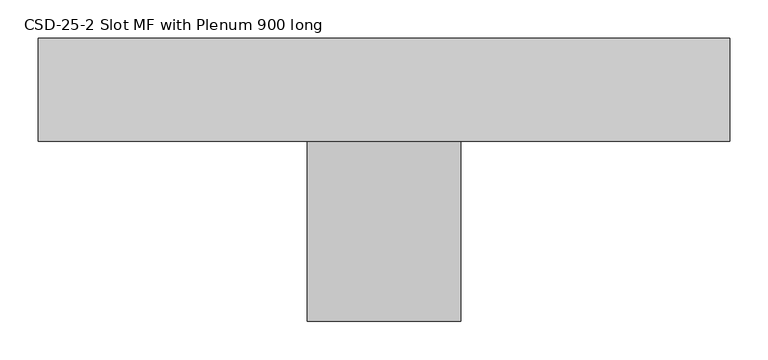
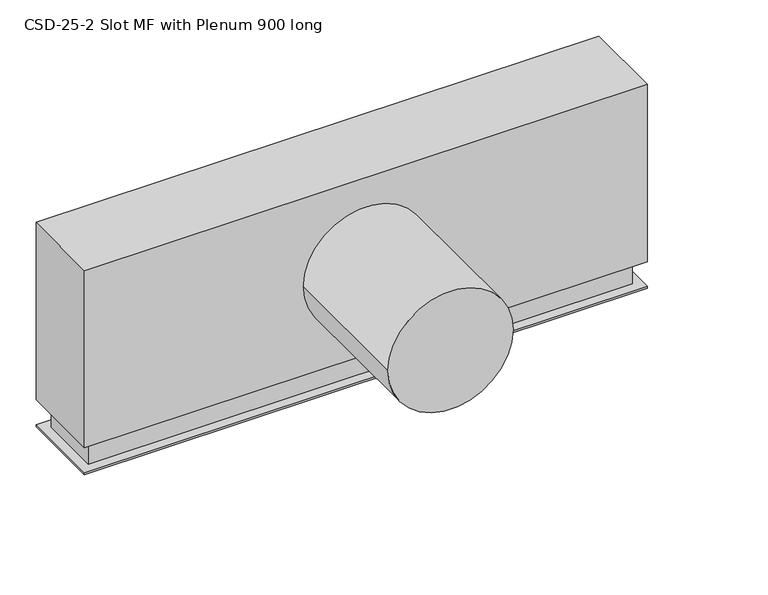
"""IFC4 building model written with IfcOpenShell, lengths in millimetres: air terminal geometry, DC_Holyoake_MEQ_CSD-25-2-MF_Slot_with_CSDAI_Plenum_14 : CSD-25-2 Slot MF with Plenum 900 long."""

import ifcopenshell
import ifcopenshell.guid

model = None  # the IFC model being written
_history = None  # IfcOwnerHistory: only IFC2X3 demands one
_inside = {}  # id of a spatial element -> (the spatial element, [elements in it])
_under = {}  # id of a project, library or spatial element -> (it, [spatial elements below it])
_declared = {}  # id of a project -> (the project, [libraries it declares])
_typed = {}  # id of a type object -> (the type object, [elements of that type])
_made_of = {}  # id of a material, layer set ... -> (it, [elements and type objects made of it])


def new_model(schema):
    """Start an empty IFC model of exactly this schema.

    Asked for "IFC4X3", IfcOpenShell would pick the latest addendum, in which some entities
    have other attributes; the version numbers below select the first issue.
    IFC2X3 requires an IfcOwnerHistory on every rooted entity: one is made here for all.
    """
    global model, _history
    if schema == "IFC4X3":
        model = ifcopenshell.file(schema_version=(4, 3, 0, 0))
    else:
        model = ifcopenshell.file(schema=schema)
    _inside.clear()
    _under.clear()
    _declared.clear()
    _typed.clear()
    _made_of.clear()
    _history = None
    if model.schema == "IFC2X3":
        org = make("IfcOrganization", Name="unknown")
        user = make(
            "IfcPersonAndOrganization",
            ThePerson=make("IfcPerson", FamilyName="unknown"),
            TheOrganization=org,
        )
        app = make(
            "IfcApplication",
            ApplicationDeveloper=org,
            Version="unknown",
            ApplicationFullName="unknown",
            ApplicationIdentifier="unknown",
        )
        _history = make(
            "IfcOwnerHistory",
            OwningUser=user,
            OwningApplication=app,
            ChangeAction="ADDED",
            CreationDate=0,
        )
    return model


def make(cls, **values):
    """One entity of the class cls with the attributes given. An attribute that is None is left unset."""
    return model.create_entity(
        cls, **{name: value for name, value in values.items() if value is not None}
    )


def rooted(cls, **values):
    """An entity with a GlobalId (a new one), such as an element, a storey or a relation."""
    return make(cls, GlobalId=ifcopenshell.guid.new(), OwnerHistory=_history, **values)


def si_unit(unit_type, name, prefix=None):
    """IfcSIUnit, for example si_unit("LENGTHUNIT", "METRE", prefix="MILLI")."""
    return make("IfcSIUnit", UnitType=unit_type, Prefix=prefix, Name=name)


def assignment(units):
    """IfcUnitAssignment: the units of a project."""
    return None if units is None else make("IfcUnitAssignment", Units=units)


def point(xyz):
    """IfcCartesianPoint."""
    return None if xyz is None else make("IfcCartesianPoint", Coordinates=xyz)


def direction(xyz):
    """IfcDirection."""
    return None if xyz is None else make("IfcDirection", DirectionRatios=xyz)


def frame(location, z_axis=None, x_axis=None):
    """IfcAxis2Placement3D, a coordinate frame: its origin and axes. An axis left out is left unset."""
    return make(
        "IfcAxis2Placement3D",
        Location=point(location),
        Axis=direction(z_axis),
        RefDirection=direction(x_axis),
    )


def frame_2d(location, x_axis=None):
    """IfcAxis2Placement2D, a coordinate frame in the plane: its origin and x axis."""
    return make(
        "IfcAxis2Placement2D", Location=point(location), RefDirection=direction(x_axis)
    )


def origin():
    """The frame at (0, 0, 0) with its axes left unset."""
    return frame((0.0, 0.0, 0.0))


def place(relative_to, where):
    """IfcLocalPlacement: puts the frame where relative to a parent placement (None: the world)."""
    return make(
        "IfcLocalPlacement", PlacementRelTo=relative_to, RelativePlacement=where
    )


def context(
    kind, dimensions, precision=None, world=None, true_north=None, identifier=None
):
    """IfcGeometricRepresentationContext, for example the 3D "Model" context."""
    return make(
        "IfcGeometricRepresentationContext",
        ContextIdentifier=identifier,
        ContextType=kind,
        CoordinateSpaceDimension=dimensions,
        Precision=precision,
        WorldCoordinateSystem=world,
        TrueNorth=true_north,
    )


def project(units=None, contexts=None):
    """IfcProject with its units and contexts."""
    return rooted(
        "IfcProject",
        Name="project",
        RepresentationContexts=contexts,
        UnitsInContext=assignment(units),
    )


def spatial(cls, under=None, at=None, **own):
    """A site, building, storey or space (cls), placed at a placement, below another one or the project."""
    s = rooted(cls, ObjectPlacement=at, **own)
    if under is not None:
        _under.setdefault(under.id(), (under, []))[1].append(s)
    return s


def polyline(points):
    """IfcPolyline through the points."""
    return make("IfcPolyline", Points=[point(p) for p in points])


def circle_curve(where, radius):
    """IfcCircle in the frame where."""
    return make("IfcCircle", Position=where, Radius=radius)


def trimmed(basis, trim1, trim2, sense, master):
    """IfcTrimmedCurve: the piece of a basis curve between two trims."""
    return make(
        "IfcTrimmedCurve",
        BasisCurve=basis,
        Trim1=trim1,
        Trim2=trim2,
        SenseAgreement=sense,
        MasterRepresentation=master,
    )


def segment(curve, same_sense, transition):
    """IfcCompositeCurveSegment."""
    return make(
        "IfcCompositeCurveSegment",
        Transition=transition,
        SameSense=same_sense,
        ParentCurve=curve,
    )


def composite_curve(segments, self_intersect=None):
    """IfcCompositeCurve: segments joined end to end."""
    return make("IfcCompositeCurve", Segments=segments, SelfIntersect=self_intersect)


def outline(outer, holes=None, kind="AREA"):
    """IfcArbitraryClosedProfileDef: a profile drawn as a closed curve; with holes, ...WithVoids."""
    if holes is None:
        return make("IfcArbitraryClosedProfileDef", ProfileType=kind, OuterCurve=outer)
    return make(
        "IfcArbitraryProfileDefWithVoids",
        ProfileType=kind,
        OuterCurve=outer,
        InnerCurves=holes,
    )


def extrude(swept, where, along, depth):
    """IfcExtrudedAreaSolid: the profile swept, set in the frame where, extruded along a direction by depth."""
    return make(
        "IfcExtrudedAreaSolid",
        SweptArea=swept,
        Position=where,
        ExtrudedDirection=direction(along),
        Depth=depth,
    )


def faces_of(points, faces, orient=None, outer=None):
    """IfcFace entities. A face is a list of loops; a loop is a list of indices into points, from 0.

    orient and outer hold one flag for each loop. By default every Orientation is true, the
    first loop of a face is its IfcFaceOuterBound and the others are IfcFaceBound.
    """
    made = []
    for i, loops in enumerate(faces):
        bounds = []
        for j, loop in enumerate(loops):
            is_outer = j == 0 if outer is None else outer[i][j]
            bounds.append(
                make(
                    "IfcFaceOuterBound" if is_outer else "IfcFaceBound",
                    Bound=make("IfcPolyLoop", Polygon=[points[k] for k in loop]),
                    Orientation=True if orient is None else orient[i][j],
                )
            )
        made.append(make("IfcFace", Bounds=bounds))
    return made


def faceted_brep(points, faces, orient=None, outer=None, voids=None):
    """IfcFacetedBrep: a solid bounded by flat faces; with voids (closed shells), ...WithVoids."""
    shared = [point(p) for p in points]
    hull = make("IfcClosedShell", CfsFaces=faces_of(shared, faces, orient, outer))
    if voids is None:
        return make("IfcFacetedBrep", Outer=hull)
    return make(
        "IfcFacetedBrepWithVoids",
        Outer=hull,
        Voids=[
            make(cls, CfsFaces=faces_of(shared, fs, o, b)) for cls, fs, o, b in voids
        ],
    )


def shape(context_of_items, identifier, shape_type, items):
    """IfcShapeRepresentation: the items that make up one representation, for example the "Body"."""
    return make(
        "IfcShapeRepresentation",
        ContextOfItems=context_of_items,
        RepresentationIdentifier=identifier,
        RepresentationType=shape_type,
        Items=items,
    )


def source(mapping_origin, context_of_items, identifier, shape_type, items):
    """IfcRepresentationMap: a shape defined once, which mapped items show again and again."""
    return make(
        "IfcRepresentationMap",
        MappingOrigin=mapping_origin,
        MappedRepresentation=shape(context_of_items, identifier, shape_type, items),
    )


def transform(
    local_origin,
    x_axis=None,
    y_axis=None,
    z_axis=None,
    scale=None,
    scale2=None,
    scale3=None,
    uniform=True,
):
    """IfcCartesianTransformationOperator3D, or its non-uniform kind. x_axis, y_axis, z_axis: its Axis1, 2, 3."""
    if uniform:
        return make(
            "IfcCartesianTransformationOperator3D",
            Axis1=direction(x_axis),
            Axis2=direction(y_axis),
            LocalOrigin=point(local_origin),
            Scale=scale,
            Axis3=direction(z_axis),
        )
    return make(
        "IfcCartesianTransformationOperator3DnonUniform",
        Axis1=direction(x_axis),
        Axis2=direction(y_axis),
        LocalOrigin=point(local_origin),
        Scale=scale,
        Axis3=direction(z_axis),
        Scale2=scale2,
        Scale3=scale3,
    )


def mapped(mapping_source, mapping_target):
    """IfcMappedItem: shows the shape of a source again, moved by a transform."""
    return make(
        "IfcMappedItem", MappingSource=mapping_source, MappingTarget=mapping_target
    )


def made_of(thing, what):
    """Note that an element or type object is made of a material, layer set ...; save() writes the relation."""
    if what is not None:
        _made_of.setdefault(what.id(), (what, []))[1].append(thing)
    return thing


def element(
    cls,
    number,
    at=None,
    inside=None,
    cuts=None,
    type_object=None,
    material=None,
    context=None,
    identifier="Body",
    shape_type=None,
    held_by="IfcProductDefinitionShape",
    body=None,
    shapes=None,
    **own,
):
    """One element of the class cls, such as IfcWall. Its Tag is "e" and its number.

    at: its placement. inside: the storey or other place that contains it. cuts: it is an
    opening in that element (IfcRelVoidsElement). A single representation is given by context,
    identifier, shape_type and body (its items); several are given by shapes. held_by: the class
    of the entity that holds the representations. save() writes the other relations.
    """
    e = rooted(cls, Tag="e%d" % number, ObjectPlacement=at, **own)
    if body is not None:
        shapes = [shape(context, identifier, shape_type, body)]
    if shapes is not None:
        e.Representation = make(held_by, Representations=shapes)
    if inside is not None:
        _inside.setdefault(inside.id(), (inside, []))[1].append(e)
    if cuts is not None:
        rooted(
            "IfcRelVoidsElement", RelatingBuildingElement=cuts, RelatedOpeningElement=e
        )
    if type_object is not None:
        _typed.setdefault(type_object.id(), (type_object, []))[1].append(e)
    return made_of(e, material)


def aggregate(whole, parts):
    """IfcRelAggregates: a whole, such as a stair, and the parts it consists of."""
    return rooted("IfcRelAggregates", RelatingObject=whole, RelatedObjects=parts)


def save(model, path):
    """Write the relations noted so far, then the file.

    IfcRelAggregates (storeys below a building ...), IfcRelContainedInSpatialStructure (elements
    in a storey), IfcRelDefinesByType, IfcRelAssociatesMaterial and IfcRelDeclares: one each for
    every whole, place, type object, material and project.
    """
    for whole, parts in _under.values():
        aggregate(whole, parts)
    for where, things in _inside.values():
        rooted(
            "IfcRelContainedInSpatialStructure",
            RelatedElements=things,
            RelatingStructure=where,
        )
    for kind, things in _typed.values():
        rooted("IfcRelDefinesByType", RelatedObjects=things, RelatingType=kind)
    for what, things in _made_of.values():
        rooted("IfcRelAssociatesMaterial", RelatedObjects=things, RelatingMaterial=what)
    for by, libraries in _declared.values():
        rooted("IfcRelDeclares", RelatingContext=by, RelatedDefinitions=libraries)
    model.write(path)


def csd_25_2_slot_mf_with_plenum_900_long_6d9be44d(model_context):
    return source(origin(), model_context, "Body", "SolidModel", [
        extrude(outline(composite_curve([segment(trimmed(circle_curve(frame_2d((195.0, 0.0)), 100.0), [point((195.0, -100.0))], [point((195.0, 100.0))], False, "CARTESIAN"), True, "CONTINUOUS"), segment(trimmed(circle_curve(frame_2d((195.0, 0.0)), 100.0), [point((195.0, 100.0))], [point((195.0, -100.0))], False, "CARTESIAN"), True, "CONTINUOUS")], self_intersect=False)), frame((0.0, -301.5, 0.0), z_axis=(0.0, 1.0, 0.0), x_axis=(0.0, 0.0, 1.0)), (0.0, 0.0, 1.0), 234.5),
        faceted_brep([(450.0, 67.0, 3.2), (-450.0, 67.0, 3.2), (-450.0, -67.0, 3.2), (450.0, -67.0, 3.2), (-435.0, 51.5, 3.2), (435.0, 51.5, 3.2), (435.0, -51.5, 3.2), (-435.0, -51.5, 3.2), (450.0, 67.0, 0.0), (450.0, -67.0, 0.0), (-450.0, -67.0, 0.0), (-450.0, 67.0, 0.0), (425.0, 9.5, 0.0), (425.0, 34.5, 0.0), (-425.0, 34.5, 0.0), (-425.0, 9.5, 0.0), (425.0, -9.5, 0.0), (-425.0, -9.5, 0.0), (-425.0, -34.5, 0.0), (425.0, -34.5, 0.0), (435.0, 51.5, 45.0), (-435.0, 51.5, 45.0), (-435.0, -51.5, 45.0), (435.0, -51.5, 45.0), (425.0, 9.5, 30.0), (-425.0, 9.5, 30.0), (-425.0, 34.5, 30.0), (425.0, 34.5, 30.0), (425.0, -9.5, 30.0), (425.0, -34.5, 30.0), (-425.0, -34.5, 30.0), (-425.0, -9.5, 30.0)], [[[0, 1, 2, 3], [4, 5, 6, 7]], [[8, 9, 10, 11], [12, 13, 14, 15], [16, 17, 18, 19]], [[1, 0, 8, 11]], [[2, 1, 11, 10]], [[3, 2, 10, 9]], [[0, 3, 9, 8]], [[20, 21, 22, 23]], [[21, 20, 5, 4]], [[22, 21, 4, 7]], [[23, 22, 7, 6]], [[20, 23, 6, 5]], [[24, 25, 26, 27]], [[28, 29, 30, 31]], [[24, 27, 13, 12]], [[27, 26, 14, 13]], [[26, 25, 15, 14]], [[25, 24, 12, 15]], [[28, 31, 17, 16]], [[31, 30, 18, 17]], [[30, 29, 19, 18]], [[29, 28, 16, 19]]]),
        extrude(outline(polyline([(450.0, 67.0), (450.0, -67.0), (-450.0, -67.0), (-450.0, 67.0), (450.0, 67.0)])), frame((0.0, 0.0, 45.0), z_axis=(0.0, 0.0, 1.0), x_axis=(1.0, 0.0, 0.0)), (0.0, 0.0, 1.0), 300.0),
    ])


if __name__ == "__main__":
    model = new_model("IFC4")
    model_context = context("Model", 3, world=origin())
    ifc_project = project(units=[si_unit("LENGTHUNIT", "METRE", prefix="MILLI")], contexts=[model_context])
    site = spatial("IfcSite", under=ifc_project)
    building = spatial("IfcBuilding", under=site)
    placement = place(None, origin())
    csd_25_2_slot_mf_with_plenum_900_long_shape = csd_25_2_slot_mf_with_plenum_900_long_6d9be44d(model_context)
    element("IfcAirTerminal", 1, ObjectType="DC_Holyoake_MEQ_CSD-25-2-MF_Slot_with_CSDAI_Plenum_14 : CSD-25-2 Slot MF with Plenum 900 long", at=placement, inside=building, context=model_context, shape_type="MappedRepresentation", body=[
        mapped(csd_25_2_slot_mf_with_plenum_900_long_shape, transform((0.0, 0.0, 0.0), x_axis=(1.0, 0.0, 0.0), y_axis=(0.0, 1.0, 0.0), z_axis=(0.0, 0.0, 1.0))),
    ])
    save(model, "model.ifc")
